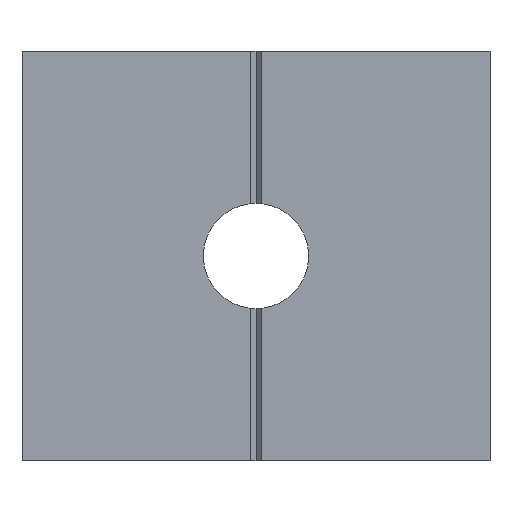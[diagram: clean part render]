
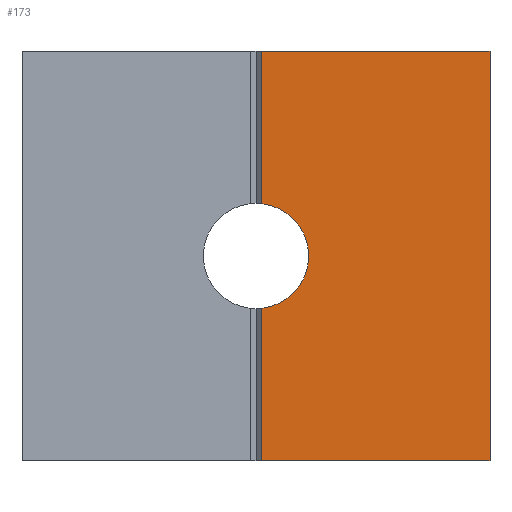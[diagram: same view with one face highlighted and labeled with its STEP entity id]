
A CAD part, front view. The second image highlights one B-rep face of the part: STEP entity #173.
In plain terms, the highlighted planar face has unit normal (0, -1, 0).
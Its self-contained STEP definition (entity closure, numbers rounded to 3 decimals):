
#21 = DIRECTION ( 'NONE',  ( 0., -1., 0. ) ) ;
#23 = EDGE_CURVE ( 'NONE', #247, #168, #1124, .T. ) ;
#48 = VERTEX_POINT ( 'NONE', #339 ) ;
#84 = ORIENTED_EDGE ( 'NONE', *, *, #537, .F. ) ;
#140 = CARTESIAN_POINT ( 'NONE',  ( 20., -20., -15. ) ) ;
#147 = VECTOR ( 'NONE', #695, 1000. ) ;
#168 = VERTEX_POINT ( 'NONE', #1068 ) ;
#169 = CARTESIAN_POINT ( 'NONE',  ( 20., -20., -15. ) ) ;
#173 = ADVANCED_FACE ( 'NONE', ( #992 ), #986, .T. ) ;
#184 = CIRCLE ( 'NONE', #733, 4.5 ) ;
#190 = CARTESIAN_POINT ( 'NONE',  ( 20., -20., -15. ) ) ;
#217 = VECTOR ( 'NONE', #1008, 1000. ) ;
#229 = DIRECTION ( 'NONE',  ( 0., 0., 1. ) ) ;
#247 = VERTEX_POINT ( 'NONE', #140 ) ;
#252 = VERTEX_POINT ( 'NONE', #946 ) ;
#283 = EDGE_CURVE ( 'NONE', #48, #760, #184, .T. ) ;
#322 = EDGE_CURVE ( 'NONE', #760, #252, #782, .T. ) ;
#339 = CARTESIAN_POINT ( 'NONE',  ( 0.5, -20., -28.028 ) ) ;
#366 = VECTOR ( 'NONE', #623, 1000. ) ;
#409 = EDGE_CURVE ( 'NONE', #1125, #48, #1064, .T. ) ;
#420 = ORIENTED_EDGE ( 'NONE', *, *, #23, .F. ) ;
#436 = CARTESIAN_POINT ( 'NONE',  ( 0.5, -20., -36.972 ) ) ;
#461 = DIRECTION ( 'NONE',  ( -1., 0., 0. ) ) ;
#466 = CARTESIAN_POINT ( 'NONE',  ( 20., -20., -50. ) ) ;
#495 = ORIENTED_EDGE ( 'NONE', *, *, #720, .T. ) ;
#508 = CARTESIAN_POINT ( 'NONE',  ( 0.5, -20., -15. ) ) ;
#537 = EDGE_CURVE ( 'NONE', #168, #252, #1083, .T. ) ;
#587 = CARTESIAN_POINT ( 'NONE',  ( 0.5, -20., -15. ) ) ;
#599 = DIRECTION ( 'NONE',  ( 0., 1., 0. ) ) ;
#609 = DIRECTION ( 'NONE',  ( -1., 0., 0. ) ) ;
#623 = DIRECTION ( 'NONE',  ( 0., 0., -1. ) ) ;
#649 = DIRECTION ( 'NONE',  ( 0., 0., -1. ) ) ;
#663 = CARTESIAN_POINT ( 'NONE',  ( 0., -20., -32.5 ) ) ;
#695 = DIRECTION ( 'NONE',  ( 0., 0., -1. ) ) ;
#720 = EDGE_CURVE ( 'NONE', #247, #1125, #880, .T. ) ;
#733 = AXIS2_PLACEMENT_3D ( 'NONE', #663, #599, #229 ) ;
#760 = VERTEX_POINT ( 'NONE', #436 ) ;
#782 = LINE ( 'NONE', #587, #217 ) ;
#794 = AXIS2_PLACEMENT_3D ( 'NONE', #190, #21, #649 ) ;
#879 = ORIENTED_EDGE ( 'NONE', *, *, #409, .T. ) ;
#880 = LINE ( 'NONE', #169, #1148 ) ;
#908 = EDGE_LOOP ( 'NONE', ( #879, #1026, #1039, #84, #420, #495 ) ) ;
#946 = CARTESIAN_POINT ( 'NONE',  ( 0.5, -20., -50. ) ) ;
#986 = PLANE ( 'NONE',  #794 ) ;
#992 = FACE_OUTER_BOUND ( 'NONE', #908, .T. ) ;
#1008 = DIRECTION ( 'NONE',  ( 0., 0., -1. ) ) ;
#1026 = ORIENTED_EDGE ( 'NONE', *, *, #283, .T. ) ;
#1039 = ORIENTED_EDGE ( 'NONE', *, *, #322, .T. ) ;
#1064 = LINE ( 'NONE', #1141, #366 ) ;
#1068 = CARTESIAN_POINT ( 'NONE',  ( 20., -20., -50. ) ) ;
#1074 = VECTOR ( 'NONE', #461, 1000. ) ;
#1083 = LINE ( 'NONE', #466, #1074 ) ;
#1118 = CARTESIAN_POINT ( 'NONE',  ( 20., -20., -15. ) ) ;
#1124 = LINE ( 'NONE', #1118, #147 ) ;
#1125 = VERTEX_POINT ( 'NONE', #508 ) ;
#1141 = CARTESIAN_POINT ( 'NONE',  ( 0.5, -20., -15. ) ) ;
#1148 = VECTOR ( 'NONE', #609, 1000. ) ;
